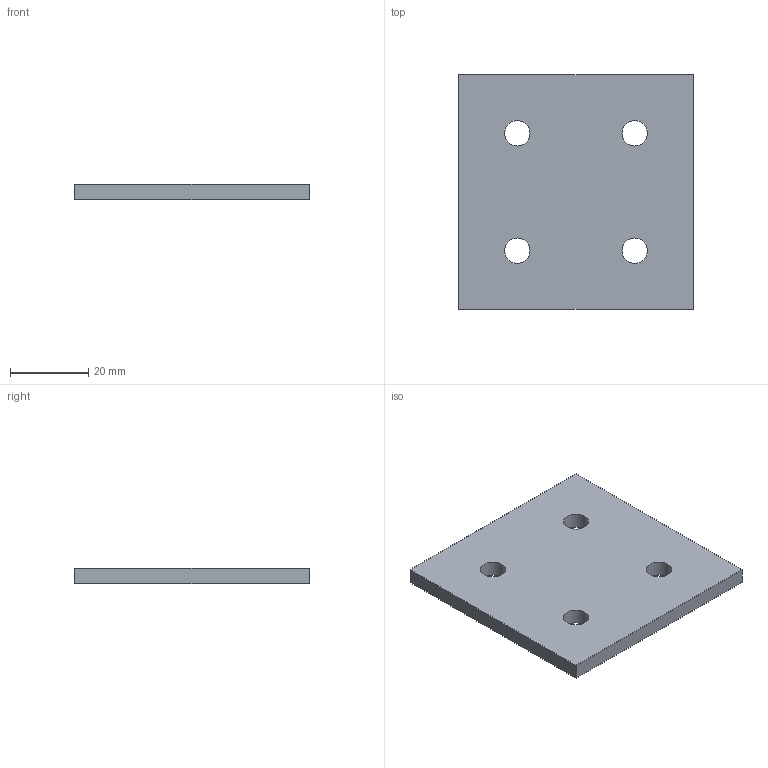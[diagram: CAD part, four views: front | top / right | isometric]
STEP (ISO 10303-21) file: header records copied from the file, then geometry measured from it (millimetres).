
FILE_DESCRIPTION(/* description */ (''),/* implementation_level */ '2;1');
FILE_NAME(/* name */ 'Plate Connector - 4 Hole - Double Slot - 30 Series - Aluminium - Silver.step',/* time_stamp */ '2025-10-18T03:38:43+03:00',/* author */ (''),/* organization */ (''),/* preprocessor_version */ 'ST-DEVELOPER v20.1',/* originating_system */ 'Autodesk Translation Framework v14.17.0.0',/* authorisation */ '');
FILE_SCHEMA (('AUTOMOTIVE_DESIGN { 1 0 10303 214 3 1 1 }'));
Length unit declared in the file: millimetre
Products named in the file (1): Plate Connector - 4 Hole - Double Slot - 30 Series - Aluminium - Silv
er
Bounding box: 60 x 60 x 4 mm (x, y, z)
Volume: 13869.1 mm3; surface area: 8221.3 mm2
Topology: 1 solids, 1 shells, 10 faces, 24 edges, 16 vertices
Faces by surface type: plane 6, cylinder 4
Full cylindrical faces by diameter (mm): 6.5 x4
Entity records: 345 total; most frequent: DIRECTION 54, CARTESIAN_POINT 51, ORIENTED_EDGE 48, EDGE_CURVE 24, AXIS2_PLACEMENT_3D 19, EDGE_LOOP 18, LINE 16, VECTOR 16
